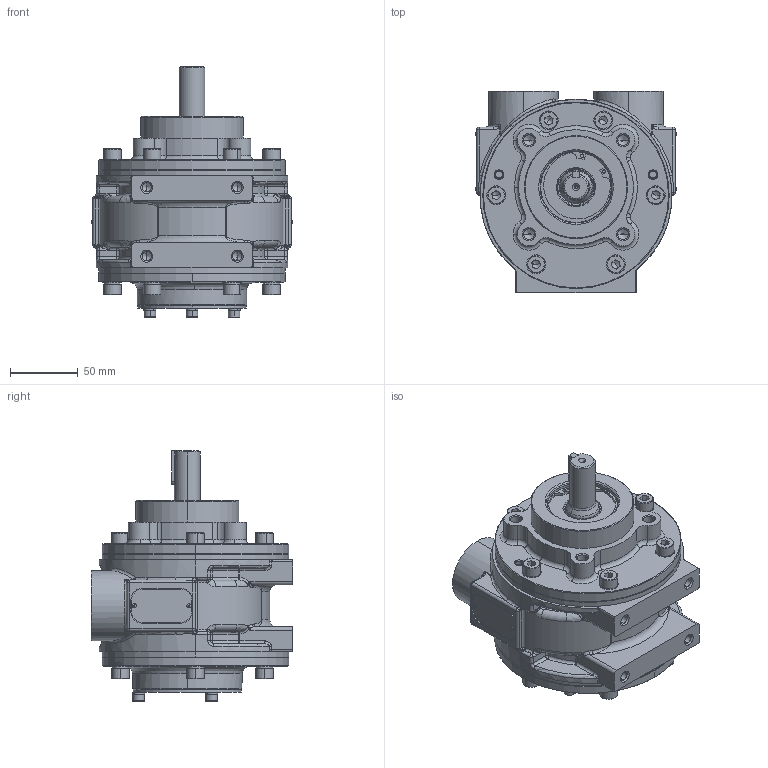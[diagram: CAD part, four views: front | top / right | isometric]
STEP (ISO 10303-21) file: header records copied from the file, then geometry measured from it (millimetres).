
FILE_DESCRIPTION (( 'STEP AP214' ), '1' );
FILE_NAME ('8VML-Face-SGI (22-04-26).STEP', '2026-04-23T05:57:56', ( '' ), ( '' ), 'SwSTEP 2.0', 'SolidWorks 2017', '' );
FILE_SCHEMA (( 'AUTOMOTIVE_DESIGN' ));
Length unit declared in the file: millimetre
Products named in the file (2): 8VML-Face-SGI (22-04-26)
Bounding box: 148.6 x 149 x 185.53 mm (x, y, z)
Volume: 706901.7 mm3; surface area: 227007.7 mm2
Topology: 48 solids, 48 shells, 1557 faces, 3681 edges, 2148 vertices
Faces by surface type: cylinder 489, plane 428, cone 252, torus 198, bspline 158, sphere 32
Entity records: 394064 total; most frequent: CARTESIAN_POINT 203421, ORIENTED_EDGE 29680, DIRECTION 20687, EDGE_CURVE 14840, VERTEX_POINT 9534, EDGE_LOOP 8582, AXIS2_PLACEMENT_3D 7719, B_SPLINE_CURVE_WITH_KNOTS 7062
